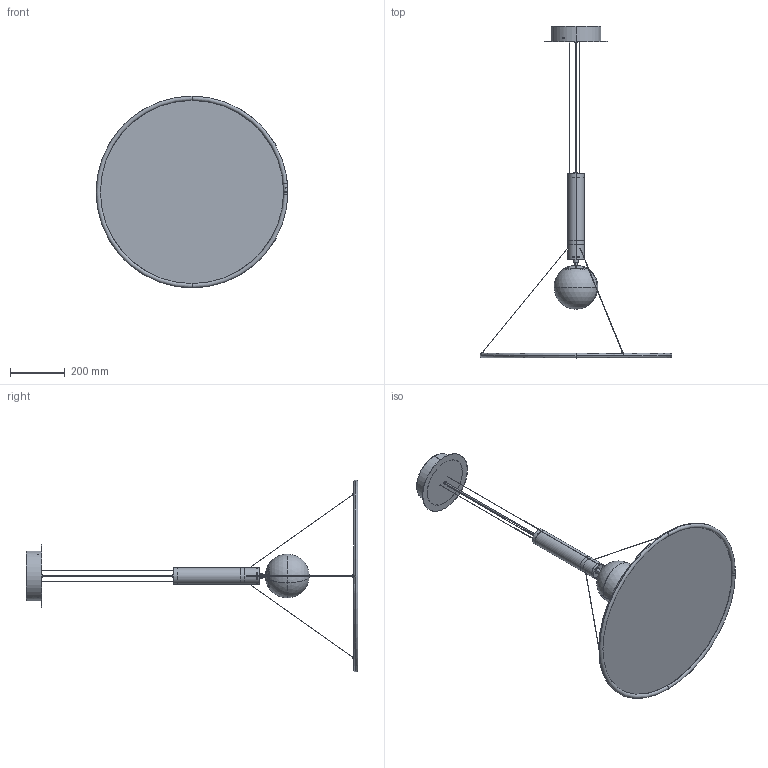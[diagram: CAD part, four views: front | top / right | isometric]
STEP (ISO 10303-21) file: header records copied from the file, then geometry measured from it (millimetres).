
FILE_DESCRIPTION (( 'STEP AP203' ), '1' );
FILE_NAME ('700up.STEP', '2019-07-25T15:30:23', ( '' ), ( '' ), 'SwSTEP 2.0', 'SolidWorks 2019', '' );
FILE_SCHEMA (( 'CONFIG_CONTROL_DESIGN' ));
Length unit declared in the file: millimetre
Products named in the file (27): 1.5C.AXO02.LS01.06_rev_A.STEP; 700up.STEP; Part115^700up; Finale Maschio M6 art.21024.STEP; 1.5C.AXO02.LS01.50_FUNE D''''ACCIAIO INOX 49 CAPI L.500.STEP; 1.0A.AXO02.LS01.M1.STEP; 1.5C.AXO02.LS01.10.STEP; 1.5C.AXO02.LS01.13_rev_A_Default_A macchina_.STEP; 1.5A.AXO02.LS01.M7.STEP; 1.5C.AXO02.LS01.51.STEP; 1.5C.AXO02.LS01.14.STEP; 1.5C.AXO02.LS01.99.STEP; 1.5A.AXO02.LS01.M6.STEP; Bloccacavo Steab_BLOCCACAVO STEAB M13x1 5346-11-2-6 NERO.STEP; 1.5C.AXO02.LS01.04.STEP; 1.5A.AXO02.LS01.S4.STEP; 700up; 1.5C.AXO02.LS01.20_rev_A_Default_A macchina_.STEP; 1.5C.AXO02.LS01.21.STEP; 1.5A.AXO02.LS01.S1_rev_A.STEP; 1.0C.AXO02.LS01.03_rev_A.STEP; 1.5C.AXO02.LS01.98.STEP; 1.5A.AXO02.LS01.M2.STEP; 1.5A.AXO02.LS01.S3.STEP; Nipplo A_NIPPLO M10x1 H.7 NERO.STEP; 1.5C.AXO02.LS01.17_rev_A.STEP; 1.0C.AXO02.LS01.01_rev_A_SENZA CARICO.STEP
Assembly tree (32 placements, depth 5):
  700up
    700up.STEP
      1.5A.AXO02.LS01.S1_rev_A.STEP
        1.5C.AXO02.LS01.04.STEP
      1.0A.AXO02.LS01.M1.STEP
        1.0C.AXO02.LS01.01_rev_A_SENZA CARICO.STEP
      1.5A.AXO02.LS01.M2.STEP
        1.5C.AXO02.LS01.06_rev_A.STEP
        1.0C.AXO02.LS01.03_rev_A.STEP
      1.5A.AXO02.LS01.M6.STEP
        1.5A.AXO02.LS01.S4.STEP
          1.5C.AXO02.LS01.21.STEP
        1.5C.AXO02.LS01.10.STEP
      1.5A.AXO02.LS01.M7.STEP
        1.5A.AXO02.LS01.S3.STEP
          1.5C.AXO02.LS01.17_rev_A.STEP
        Nipplo A_NIPPLO M10x1 H.7 NERO.STEP
        1.5C.AXO02.LS01.20_rev_A_Default_A macchina_.STEP
      1.5C.AXO02.LS01.50_FUNE D''''ACCIAIO INOX 49 CAPI L.500.STEP  x3
      Finale Maschio M6 art.21024.STEP  x3
      Bloccacavo Steab_BLOCCACAVO STEAB M13x1 5346-11-2-6 NERO.STEP
      1.5C.AXO02.LS01.14.STEP
      1.5C.AXO02.LS01.13_rev_A_Default_A macchina_.STEP
      1.5C.AXO02.LS01.98.STEP  x3
      1.5C.AXO02.LS01.51.STEP
      1.5C.AXO02.LS01.99.STEP
    Part115^700up
Bounding box: 700 x 1210.21 x 700 mm (x, y, z)
Volume: 1069226.5 mm3; surface area: 1465131.3 mm2
Topology: 33 solids, 33 shells, 641 faces, 1460 edges, 903 vertices
Faces by surface type: cylinder 316, plane 142, torus 106, cone 63, sphere 14
Entity records: 21598 total; most frequent: CARTESIAN_POINT 6407, DIRECTION 2808, ORIENTED_EDGE 2328, AXIS2_PLACEMENT_3D 1193, EDGE_CURVE 1164, VERTEX_POINT 733, EDGE_LOOP 649, CIRCLE 639
